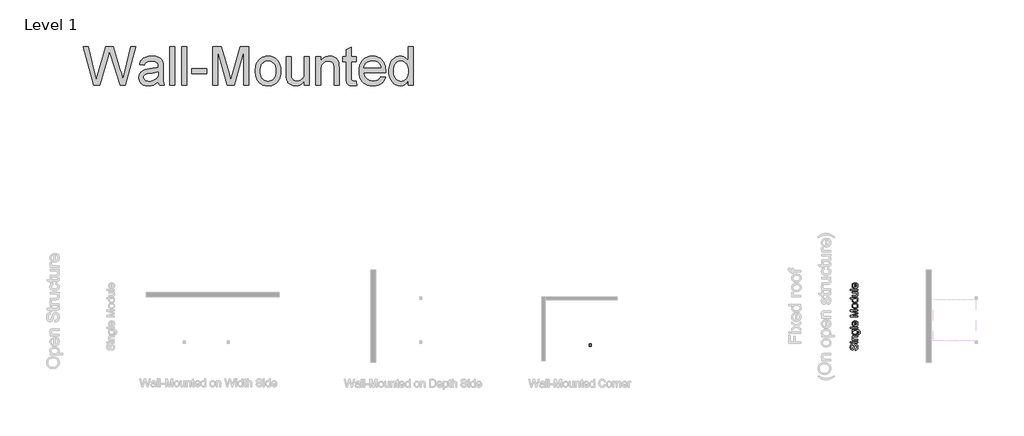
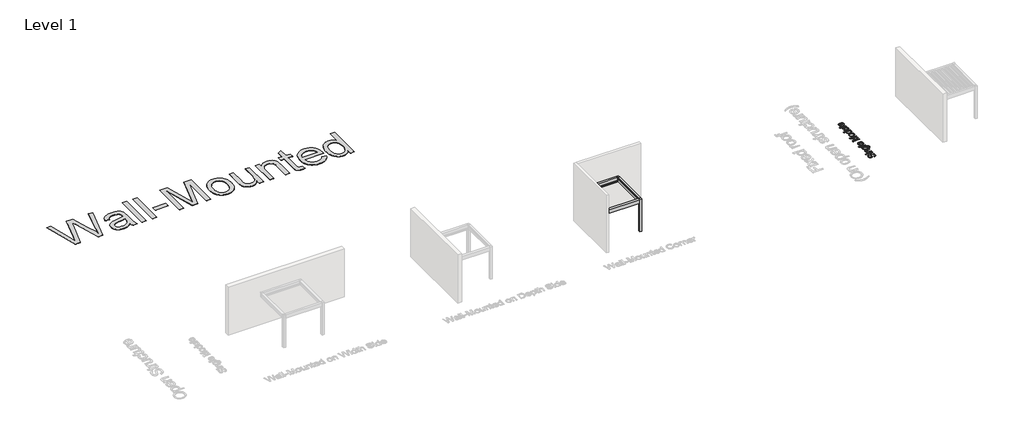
# One storey, part 71 of 80: 3 proxies.
"""IFC4 building model written with IfcOpenShell, lengths in millimetres."""

from ifc_helpers import new_model, si_unit, origin, origin_with_axes, place, context, project, spatial, polyline, outline, extrude, transform, mapped, element, save
from components import generic_models_99ac2013

model = new_model("IFC4")

# Units and contexts
model_context = context("Model", 3, world=origin())
ifc_project = project(units=[si_unit("LENGTHUNIT", "METRE", prefix="MILLI")], contexts=[model_context])

# Site, building, storey
site = spatial("IfcSite", under=ifc_project)
building = spatial("IfcBuilding", under=site)
storey = spatial("IfcBuildingStorey", under=building, Name="Level 1", Elevation=0.0)

# Proxies
placement = place(None, origin())
generic_models_shape = generic_models_99ac2013(model_context)
element("IfcBuildingElementProxy", 1, Name="Renson_Amani_Patio_Cover : Renson_Amani_Patio_Cover", ObjectType="Renson_Amani_Patio_Cover : Renson_Amani_Patio_Cover", at=placement, inside=storey, context=model_context, shape_type="MappedRepresentation", body=[
    mapped(generic_models_shape, transform((201674.0111744, 67328.5861401, 0.0), x_axis=(1.0, 0.0, 0.0), y_axis=(0.0, 1.0, 0.0), z_axis=(0.0, 0.0, 1.0))),
])
element("IfcBuildingElementProxy", 2, Name="2500 mm Arial", ObjectType="2500 mm Arial", at=placement, inside=storey, context=model_context, shape_type="SweptSolid", body=[
    extrude(outline(polyline([(170970.0635711, 82741.8832107), (170285.1899234, 85253.2909644), (170608.9260792, 85253.2909644), (171006.238634, 83602.7270794), (171128.8659657, 83093.2105161), (171260.0772106, 83543.8659602), (171757.9441774, 85253.2909644), (172224.5411746, 85253.2909644), (172586.2918032, 84014.1417773), (172668.8736469, 83784.3688145), (172741.2620937, 83554.2892834), (172803.4571435, 83323.9031839), (172855.4587964, 83093.2105161), (172974.4073081, 83588.0117996), (173375.3986829, 85253.2909644), (173699.1348386, 85253.2909644), (173013.6480543, 82741.8832107), (172678.262302, 82741.8832107), (172076.1621033, 84679.3950519), (171992.162381, 84949.7883184), (171897.7393356, 84624.2127527), (171348.9820261, 82741.8832107), (170970.0635711, 82741.8832107)])), origin_with_axes(), (0.0, 0.0, 1.0), 5.0),
    extrude(outline(polyline([(175151.0424463, 82977.3276876), (175076.6038238, 82907.4684295), (175001.0538912, 82848.7222734), (174924.3926483, 82801.0892193), (174846.6200953, 82764.569267), (174766.8548481, 82737.4762909), (174684.2155228, 82718.1241652), (174598.7021195, 82706.5128897), (174510.314638, 82702.6424645), (174438.2758708, 82704.9704678), (174370.5386404, 82711.9544775), (174307.1029468, 82723.5944938), (174247.9687902, 82739.8905165), (174193.1361704, 82760.8425458), (174142.6050875, 82786.4505815), (174096.3755415, 82816.7146238), (174054.4475323, 82851.6346726), (174017.1563691, 82890.1760597), (173984.837361, 82931.3041171), (173957.490508, 82975.0188449), (173935.1158101, 83021.3202428), (173917.7132673, 83070.2083111), (173905.2828796, 83121.6830497), (173897.824647, 83175.7444585), (173895.3385694, 83232.3925376), (173899.0940314, 83298.9561861), (173910.3604175, 83362.5307934), (173929.1377277, 83423.1163595), (173955.425962, 83480.7128843), (173987.8264023, 83534.0557736), (174024.9403306, 83581.880433), (174066.7677471, 83624.1868624), (174113.3086515, 83660.975062), (174163.7199812, 83692.9348103), (174217.1586731, 83720.7558862), (174273.6247273, 83744.4382896), (174333.1181437, 83763.9820206), (174446.088573, 83788.0476345), (174604.7376834, 83811.1935433), (174777.4122949, 83834.9525888), (174925.7147242, 83860.8576127), (175049.6449714, 83888.9086148), (175149.2030363, 83919.1055952), (175151.0424463, 83989.0031743), (175145.6391795, 84065.1087621), (175138.885096, 84098.6205126), (175129.4293791, 84129.1049008), (175117.2720288, 84156.5619268), (175102.413045, 84180.9915906), (175084.8524279, 84202.393892), (175064.5901774, 84220.7688313), (175033.6842577, 84242.0370091), (174999.2144812, 84260.4694299), (174961.1808478, 84276.0660937), (174919.5833576, 84288.8270004), (174874.4220106, 84298.7521501), (174825.6968068, 84305.8415427), (174717.5548286, 84311.5130568), (174617.0004166, 84307.7384342), (174530.5481477, 84296.4145665), (174458.198022, 84277.5414538), (174427.3112628, 84265.2739305), (174399.9500395, 84251.1190959), (174375.1850666, 84234.559616), (174352.087059, 84215.0781567), (174310.8919398, 84167.3492999), (174276.3646817, 84107.9325256), (174248.5052848, 84036.8278337), (173934.5793156, 84076.0685798), (173958.4724847, 84166.506237), (173989.0718361, 84247.7468443), (174026.3773697, 84319.7904017), (174070.3890854, 84382.6369092), (174123.003875, 84437.5509612), (174186.1186298, 84485.797152), (174259.7333498, 84527.3754816), (174343.8480352, 84562.2859501), (174436.7573995, 84589.9154208), (174536.7561564, 84609.650757), (174643.8443059, 84621.4919587), (174758.0218481, 84625.439026), (174869.6318805, 84621.9518112), (174970.2437741, 84611.490167), (175059.8575288, 84594.0540933), (175138.4731448, 84569.64359), (175206.7420796, 84539.9639437), (175265.315791, 84506.7204405), (175314.194279, 84469.9130804), (175353.3775436, 84429.5418635), (175385.1456868, 84384.6104428), (175411.7788104, 84334.122471), (175433.2769145, 84278.0779483), (175449.639999, 84216.4768747), (175456.3461812, 84169.4186361), (175461.1363114, 84107.9516861), (175464.9684155, 83941.7916516), (175464.9684155, 83551.2236001), (175468.9538038, 83211.0093966), (175473.9355391, 83091.5435508), (175480.9099686, 83005.8385422), (175490.7967972, 82937.7228915), (175504.51573, 82871.0251194), (175522.0667668, 82805.7452258), (175543.4499078, 82741.8832107), (175229.5239386, 82741.8832107), (175201.6262206, 82794.306395), (175179.2467326, 82851.0215359), (175162.3854745, 82912.0286334), (175151.0424463, 82977.3276876)]), holes=[polyline([(175151.0424463, 83605.179626), (175056.1595484, 83578.0100078), (174940.1234357, 83552.9097259), (174802.9341083, 83529.8787801), (174644.5915663, 83508.9171706), (174481.7271413, 83484.8515568), (174421.1607357, 83471.7840817), (174374.5048681, 83458.026828), (174337.0843714, 83442.27688), (174304.2240786, 83423.2313226), (174275.9239897, 83400.8901556), (174252.1841047, 83375.253379), (174233.4067946, 83347.2406979), (174219.9944302, 83317.7718173), (174211.9470115, 83286.8467371), (174209.2645386, 83254.4654573), (174215.1084974, 83205.6827719), (174232.6403737, 83161.115401), (174261.8601676, 83120.7633447), (174302.7678791, 83084.6266028), (174327.5089013, 83068.6754695), (174354.9802977, 83054.8511539), (174418.114213, 83033.582976), (174492.169625, 83020.8220693), (174577.1465338, 83016.5684337), (174663.905371, 83021.2627613), (174745.7591149, 83035.3457439), (174822.7077656, 83058.8173816), (174894.751323, 83091.6776744), (174959.7438088, 83131.2058284), (175015.5392447, 83174.6810496), (175062.1376308, 83222.103338), (175099.538967, 83273.4726937), (175121.2669973, 83319.4579431), (175136.787019, 83375.253379), (175146.099032, 83440.8590015), (175149.2030363, 83516.2748105), (175151.0424463, 83605.179626)])]), origin_with_axes(), (0.0, 0.0, 1.0), 5.0),
    extrude(outline(polyline([(175896.6166232, 82741.8832107), (175896.6166232, 85253.2909644), (176210.5425924, 85253.2909644), (176210.5425924, 82741.8832107), (175896.6166232, 82741.8832107)])), origin_with_axes(), (0.0, 0.0, 1.0), 5.0),
    extrude(outline(polyline([(176681.4315462, 82741.8832107), (176681.4315462, 85253.2909644), (176995.3575154, 85253.2909644), (176995.3575154, 82741.8832107), (176681.4315462, 82741.8832107)])), origin_with_axes(), (0.0, 0.0, 1.0), 5.0),
    extrude(outline(polyline([(177309.2834846, 83487.4573876), (177309.2834846, 83801.3833568), (178290.3021385, 83801.3833568), (178290.3021385, 83487.4573876), (177309.2834846, 83487.4573876)])), origin_with_axes(), (0.0, 0.0, 1.0), 5.0),
    extrude(outline(polyline([(178682.7096, 82741.8832107), (178682.7096, 85253.2909644), (179222.8829962, 85253.2909644), (179736.6915162, 83483.165431), (179840.3116115, 83113.4440258), (179952.51562, 83513.8222639), (180457.7402267, 85253.2909644), (180997.913623, 85253.2909644), (180997.913623, 82741.8832107), (180683.9876537, 82741.8832107), (180683.9876537, 84939.3649952), (180053.070032, 82741.8832107), (179627.5531909, 82741.8832107), (178996.6355692, 84939.3649952), (178996.6355692, 82741.8832107), (178682.7096, 82741.8832107)])), origin_with_axes(), (0.0, 0.0, 1.0), 5.0),
    extrude(outline(polyline([(181429.5618306, 83664.0407453), (181433.8058859, 83787.5973622), (181446.5380519, 83902.8957948), (181467.7583284, 84009.9360431), (181497.4667156, 84108.7181069), (181535.6632134, 84199.2419864), (181582.3478218, 84281.5076815), (181637.5205408, 84355.5151923), (181701.1813704, 84421.2645187), (181759.4485135, 84469.1179188), (181820.8196609, 84510.5908656), (181885.2948127, 84545.6833591), (181952.8739688, 84574.3953991), (182023.5571292, 84596.7269859), (182097.344294, 84612.6781193), (182174.2354631, 84622.2487993), (182254.2306365, 84625.439026), (182342.9007356, 84621.5542304), (182427.422582, 84609.8998438), (182507.7961757, 84590.475866), (182584.0215167, 84563.2822972), (182656.098605, 84528.3191373), (182724.0274406, 84485.5863862), (182787.8080235, 84435.0840441), (182847.4403537, 84376.8121109), (182901.4011698, 84311.6902916), (182948.1672104, 84240.6382911), (182987.7384755, 84163.6561096), (183020.1149652, 84080.7437469), (183045.2966794, 83991.9012031), (183063.2836181, 83897.1284781), (183074.0757813, 83796.4255721), (183077.673169, 83689.7924849), (183076.0828458, 83603.4072779), (183071.3118762, 83521.7547194), (183063.3602601, 83444.8348095), (183052.2279977, 83372.6475482), (183037.9150888, 83305.1929355), (183020.4215335, 83242.4709714), (182999.7473318, 83184.4816559), (182975.8924837, 83131.2249889), (182948.9959029, 83081.7573149), (182919.1965033, 83035.1349782), (182886.4942848, 82991.3579788), (182850.8892474, 82950.4263167), (182812.3813912, 82912.3399919), (182770.9707161, 82877.0990044), (182726.6572221, 82844.7033542), (182679.4409092, 82815.1530414), (182630.2127417, 82788.7833749), (182579.8636838, 82765.929664), (182528.3937354, 82746.5919086), (182475.8028965, 82730.7701087), (182422.0911672, 82718.4642644), (182367.2585474, 82709.6743756), (182311.3050372, 82704.4004423), (182254.2306365, 82702.6424645), (182164.1618194, 82706.5128897), (182078.5095022, 82718.1241652), (181997.2736851, 82737.4762909), (181920.4543679, 82764.569267), (181848.0515508, 82799.4030935), (181780.0652336, 82841.9777702), (181716.4954165, 82892.2932972), (181657.3420993, 82950.3496746), (181603.9560988, 83015.6870498), (181557.6882318, 83087.8455703), (181518.5384981, 83166.8252361), (181486.5068978, 83252.6260473), (181461.5934309, 83345.2480038), (181443.7980974, 83444.6911056), (181433.1208973, 83550.9553528), (181429.5618306, 83664.0407453)]), holes=[polyline([(181743.4877998, 83664.6538819), (181745.7583215, 83585.966414), (181752.5698866, 83512.3852248), (181763.922495, 83443.9103144), (181779.8161469, 83380.5416827), (181800.2508421, 83322.2793298), (181825.2265806, 83269.1232555), (181854.7433626, 83221.07346), (181888.8011879, 83178.1299433), (181926.2983267, 83140.2639645), (181966.133049, 83107.4467829), (182008.3053548, 83079.6783984), (182052.8152441, 83056.9588111), (182099.6627169, 83039.288021), (182148.8477733, 83026.6660281), (182200.3704131, 83019.0928323), (182254.2306365, 83016.5684337), (182307.803452, 83019.1072027), (182359.0770051, 83026.7235096), (182408.0512957, 83039.4173545), (182454.7263239, 83057.1887374), (182499.1020895, 83080.0376582), (182541.1785927, 83107.9641169), (182580.9558334, 83140.9681136), (182618.4338117, 83179.0496483), (182652.491637, 83222.3332643), (182682.008419, 83270.943505), (182706.9841576, 83324.8803704), (182727.4188528, 83384.1438606), (182743.3125046, 83448.7339755), (182754.665113, 83518.6507151), (182761.4766781, 83593.8940794), (182763.7471998, 83674.4640684), (182761.4623077, 83750.5648661), (182754.6076315, 83821.9042743), (182743.1831711, 83888.4822932), (182727.1889265, 83950.2989227), (182706.6248978, 84007.3541629), (182681.4910849, 84059.6480137), (182651.7874879, 84107.1804751), (182617.5141067, 84149.9515472), (182579.8493134, 84187.817526), (182539.9714799, 84220.6347076), (182497.8806063, 84248.4030921), (182453.5766926, 84271.1226794), (182407.0597388, 84288.7934695), (182358.3297448, 84301.4154624), (182307.3867107, 84308.9886582), (182254.2306365, 84311.5130568), (182200.3704131, 84308.9982384), (182148.8477733, 84301.4537835), (182099.6627169, 84288.8796918), (182052.8152441, 84271.2759635), (182008.3053548, 84248.6425986), (181966.133049, 84220.979597), (181926.2983267, 84188.2869588), (181888.8011879, 84150.5646839), (181854.7433626, 84107.764871), (181825.2265806, 84059.8396189), (181800.2508421, 84006.7889276), (181779.8161469, 83948.6127969), (181763.922495, 83885.3112271), (181752.5698866, 83816.8842179), (181745.7583215, 83743.3317695), (181743.4877998, 83664.6538819)])]), origin_with_axes(), (0.0, 0.0, 1.0), 5.0),
    extrude(outline(polyline([(184608.062269, 82741.8832107), (184608.062269, 83058.8748632), (184553.6080695, 82975.3828947), (184494.4787029, 82903.0231888), (184430.6741694, 82841.7957452), (184362.1944688, 82791.7005642), (184289.0396013, 82752.7376456), (184211.2095667, 82724.9069894), (184128.704365, 82708.2085958), (184041.5239964, 82702.6424645), (183963.7514433, 82706.5512107), (183888.6230421, 82718.2774493), (183816.1387928, 82737.8211803), (183746.2986953, 82765.1824037), (183682.1875934, 82798.4450674), (183626.890331, 82835.6931194), (183580.4069081, 82876.9265597), (183542.7373246, 82922.1453883), (183511.946368, 82972.0010629), (183486.0988257, 83027.1450411), (183465.1946978, 83087.577323), (183449.2339841, 83153.2979086), (183441.1865655, 83206.0276613), (183435.4384093, 83272.2464204), (183430.8398844, 83445.1509581), (183430.8398844, 84586.1982798), (183744.7658536, 84586.1982798), (183744.7658536, 83592.9168928), (183749.5176627, 83394.2606155), (183755.4574241, 83323.9031839), (183763.77309, 83272.859557), (183782.5695607, 83216.2785398), (183809.5284132, 83166.0971364), (183844.6496474, 83122.3153468), (183887.9332634, 83084.9331712), (183938.0763458, 83055.0235985), (183993.7759791, 83033.6596181), (184055.0321634, 83020.8412298), (184121.8448987, 83016.5684337), (184190.6503281, 83020.9370324), (184257.2714581, 83034.0428285), (184321.7082889, 83055.885822), (184383.9608202, 83086.4660128), (184440.6568006, 83124.5762883), (184488.4239784, 83169.0095355), (184527.2623537, 83219.7657545), (184557.1719263, 83276.8449453), (184579.4364512, 83343.8876068), (184595.3396833, 83424.534238), (184604.8816225, 83518.7848387), (184608.062269, 83626.6394091), (184608.062269, 84586.1982798), (184921.9882382, 84586.1982798), (184921.9882382, 82741.8832107), (184608.062269, 82741.8832107)])), origin_with_axes(), (0.0, 0.0, 1.0), 5.0),
    extrude(outline(polyline([(185353.6364458, 82741.8832107), (185353.6364458, 84586.1982798), (185667.5624151, 84586.1982798), (185667.5624151, 84328.6808832), (185719.3533022, 84398.2335729), (185776.6240982, 84458.5125707), (185839.3748031, 84509.5178765), (185907.6054169, 84551.2494903), (185981.3159396, 84583.7074122), (186060.5063712, 84606.8916421), (186145.1767116, 84620.80218), (186235.326961, 84625.439026), (186314.3257873, 84621.7027245), (186390.0673252, 84610.4938199), (186462.5515745, 84591.8123124), (186531.7785354, 84565.6582018), (186595.1232164, 84533.4302061), (186649.9606264, 84496.5270435), (186696.2907651, 84454.9487138), (186734.1136327, 84408.6952172), (186765.1728366, 84357.824035), (186791.2119841, 84302.392649), (186812.2310752, 84242.401059), (186828.2301098, 84177.8492652), (186835.4727866, 84126.460749), (186840.6461272, 84058.7474692), (186844.7847996, 83874.3466192), (186844.7847996, 82741.8832107), (186530.8588304, 82741.8832107), (186530.8588304, 83832.0401897), (186528.597889, 83919.0672742), (186521.8150647, 83994.3681201), (186510.5103576, 84057.9427274), (186494.6837676, 84109.7910961), (186473.1281819, 84153.4579225), (186444.6364878, 84192.4879029), (186409.2086852, 84226.8810374), (186366.8447742, 84256.6373258), (186319.0009543, 84280.6454581), (186267.1334251, 84297.794124), (186211.2421866, 84308.0833236), (186151.3272387, 84311.5130568), (186102.8175907, 84309.5874244), (186056.0036488, 84303.8105275), (186010.885413, 84294.1823659), (185967.4628832, 84280.7029397), (185925.7360595, 84263.3722488), (185885.7049419, 84242.1902933), (185847.3695303, 84217.1570732), (185810.7298249, 84188.2725884), (185777.1749632, 84154.0039973), (185748.0940831, 84112.8184583), (185723.4871845, 84064.7159714), (185703.3542675, 84009.6965366), (185687.6953321, 83947.7601538), (185676.5103782, 83878.9068231), (185669.7994058, 83803.1365444), (185667.5624151, 83720.4493178), (185667.5624151, 82741.8832107), (185353.6364458, 82741.8832107)])), origin_with_axes(), (0.0, 0.0, 1.0), 5.0),
    extrude(outline(polyline([(187943.5256919, 83003.6925639), (187982.766438, 82732.6861608), (187858.4529805, 82710.1533886), (187801.4695923, 82704.5201955), (187747.9350978, 82702.6424645), (187667.8058007, 82705.899753), (187597.2567639, 82715.6716185), (187536.2879874, 82731.958061), (187484.8994712, 82754.7590805), (187441.7499789, 82782.8484037), (187405.4982739, 82814.9997572), (187376.1443564, 82851.2131411), (187353.6882263, 82891.4885554), (187337.0568944, 82945.4829024), (187325.1773717, 83022.8530845), (187318.049658, 83123.5991017), (187315.6737535, 83247.720954), (187315.6737535, 84272.2723106), (187080.2292765, 84272.2723106), (187080.2292765, 84586.1982798), (187315.6737535, 84586.1982798), (187315.6737535, 85034.4011773), (187629.5997227, 85218.9553115), (187629.5997227, 84586.1982798), (187943.5256919, 84586.1982798), (187943.5256919, 84272.2723106), (187629.5997227, 84272.2723106), (187629.5997227, 83256.9180039), (187633.7383951, 83153.6044769), (187638.9117357, 83118.7323295), (187646.1544125, 83095.049926), (187655.7155122, 83077.9012601), (187667.8441218, 83062.6303252), (187699.8038701, 83037.7216485), (187720.4014297, 83028.467117), (187745.0993407, 83021.8567374), (187806.796217, 83016.5684337), (187866.7303254, 83013.3494663), (187943.5256919, 83003.6925639)])), origin_with_axes(), (0.0, 0.0, 1.0), 5.0),
    extrude(outline(polyline([(189548.7174642, 83291.2536568), (189856.5120668, 83252.0129107), (189834.9804318, 83188.5436862), (189809.3197046, 83128.7341212), (189779.5298852, 83072.5842157), (189745.6109737, 83020.0939695), (189707.5629699, 82971.2633828), (189665.385874, 82926.0924556), (189619.0796859, 82884.5811877), (189568.6444056, 82846.7295793), (189514.3291199, 82812.9591618), (189456.3829155, 82783.6914666), (189394.8057925, 82758.9264937), (189329.5977508, 82738.6642432), (189260.7587905, 82722.904715), (189188.2889115, 82711.6479092), (189112.1881139, 82704.8938257), (189032.4563976, 82702.6424645), (188932.4097394, 82706.5272601), (188837.6705454, 82718.1816467), (188748.2388156, 82737.6056245), (188664.1145499, 82764.7991933), (188585.2977485, 82799.7623532), (188511.7884113, 82842.4951043), (188443.5865383, 82892.9974464), (188380.6921295, 82951.2693796), (188324.2164951, 83016.5540633), (188275.2709453, 83088.0946571), (188233.85548, 83165.8911608), (188199.9700994, 83249.9435744), (188173.6148033, 83340.2518981), (188154.7895918, 83436.8161317), (188143.4944649, 83539.6362752), (188139.7294227, 83648.7123288), (188143.532786, 83761.5007332), (188154.942876, 83867.7937211), (188173.9596927, 83967.5912926), (188200.583236, 84060.8934475), (188234.813506, 84147.700186), (188276.6505027, 84228.0115081), (188326.0942261, 84301.8274136), (188383.1446761, 84369.1479027), (188446.2594309, 84429.2161347), (188513.8960686, 84481.2752691), (188586.0545891, 84525.3253059), (188662.7349925, 84561.3662452), (188743.9372787, 84589.3980868), (188829.6614478, 84609.4208308), (188919.9074997, 84621.4344772), (189014.6754345, 84625.439026), (189106.3441551, 84621.4440574), (189193.7304994, 84609.4591518), (189276.8344672, 84589.4843091), (189355.6560588, 84561.5195293), (189430.195274, 84525.5648124), (189500.4521128, 84481.6201585), (189566.4265753, 84429.6855675), (189628.1186615, 84369.7610393), (189683.9476283, 84302.5938344), (189732.3327329, 84228.9312131), (189773.2739753, 84148.7731752), (189806.7713554, 84062.1197209), (189832.8248732, 83968.9708501), (189851.4345289, 83869.3265628), (189862.6003222, 83763.186859), (189866.3222533, 83650.5517388), (189864.4828434, 83565.9388799), (188453.6553919, 83565.9388799), (188460.5004878, 83501.3583452), (188471.8387259, 83440.6673963), (188487.670106, 83383.866033), (188507.9946282, 83330.9542555), (188532.8122925, 83281.9320635), (188562.1230989, 83236.7994573), (188595.9270473, 83195.5564368), (188634.2241378, 83158.2030019), (188676.0180234, 83125.0074), (188720.3123568, 83096.2378783), (188767.1071382, 83071.8944369), (188816.4023675, 83051.9770758), (188868.1980448, 83036.4857949), (188922.49417, 83025.4205942), (188979.2907431, 83018.7814739), (189038.5877642, 83016.5684337), (189125.4232435, 83020.6687851), (189205.6675037, 83032.9698394), (189279.3205448, 83053.4715964), (189346.3823668, 83082.1740562), (189406.8529698, 83119.8436397), (189460.7323537, 83167.2467676), (189508.0205185, 83224.38344), (189548.7174642, 83291.2536568)]), holes=[polyline([(188453.6553919, 83879.8648491), (189552.3962841, 83879.8648491), (189536.2631258, 83968.6930225), (189524.3740228, 84008.681029), (189509.9365705, 84045.7183152), (189492.950769, 84079.8048814), (189473.4166183, 84110.9407273), (189451.3341183, 84139.1258531), (189426.7032691, 84164.3602587), (189385.3740262, 84198.8491957), (189341.0940632, 84228.7396078), (189293.8633799, 84254.031495), (189243.6819765, 84274.7248572), (189190.5498529, 84290.8196945), (189134.4670092, 84302.3160069), (189075.4334453, 84309.2137943), (189013.4491612, 84311.5130568), (188957.1124406, 84309.6784369), (188903.0654021, 84304.1745774), (188851.3080459, 84295.0014781), (188801.8403719, 84282.1591392), (188754.6623801, 84265.6475606), (188709.7740705, 84245.4667423), (188667.1754431, 84221.6166843), (188626.8664979, 84194.0973866), (188589.8914833, 84163.5028254), (188557.2946477, 84130.4269767), (188529.075991, 84094.8698407), (188505.2355133, 84056.8314172), (188485.7732145, 84016.3117063), (188470.6890947, 83973.310708), (188459.9831538, 83927.8284222), (188453.6553919, 83879.8648491)])]), origin_with_axes(), (0.0, 0.0, 1.0), 5.0),
    extrude(outline(polyline([(191318.229861, 82741.8832107), (191318.229861, 83038.0282168), (191273.7487124, 82959.4221811), (191224.3049891, 82891.2969502), (191169.8986909, 82833.652524), (191110.5298179, 82786.4889026), (191046.19837, 82749.8060859), (190976.9043473, 82723.604074), (190902.6477498, 82707.8828669), (190823.4285775, 82702.6424645), (190771.0820352, 82704.5393561), (190719.8084822, 82710.2300307), (190669.6079182, 82719.7144884), (190620.4803435, 82732.9927291), (190572.4257578, 82750.064753), (190525.4441614, 82770.9305599), (190479.5355541, 82795.5901499), (190434.6999359, 82824.0435229), (190391.6462461, 82855.8930983), (190351.0834241, 82890.7412951), (190313.0114697, 82928.5881134), (190277.430383, 82969.4335531), (190244.3401639, 83013.2776143), (190213.7408125, 83060.120297), (190185.6323289, 83109.9616012), (190160.0147128, 83162.8015268), (190137.165792, 83218.1514807), (190117.363394, 83275.5228694), (190100.6075188, 83334.9156931), (190086.8981663, 83396.3299517), (190076.2353366, 83459.7656452), (190068.6190297, 83525.2227736), (190062.5259841, 83662.2013353), (190068.1400166, 83796.6698687), (190084.9821142, 83924.7771093), (190113.0522769, 84046.5230571), (190152.3505046, 84161.9077121), (190176.2053527, 84216.3714918), (190202.8576369, 84267.5588225), (190232.307357, 84315.4697043), (190264.5545131, 84360.104137), (190299.5991053, 84401.4621206), (190337.4411334, 84439.5436553), (190378.0805976, 84474.3487409), (190421.5174977, 84505.8773775), (190467.0093637, 84533.8996389), (190513.8137254, 84558.1855987), (190561.9305827, 84578.7352571), (190611.3599357, 84595.5486139), (190662.1017843, 84608.6256692), (190714.1561286, 84617.966423), (190767.5229685, 84623.5708752), (190822.2023042, 84625.439026), (190901.220291, 84620.0932407), (190975.7930371, 84604.055885), (191045.9205425, 84577.3269588), (191111.602807, 84539.9064621), (191172.111731, 84493.9403732), (191226.7192147, 84441.5746705), (191275.425258, 84382.8093538), (191318.229861, 84317.6444233), (191318.229861, 85253.2909644), (191632.1558302, 85253.2909644), (191632.1558302, 82741.8832107), (191318.229861, 82741.8832107)]), holes=[polyline([(190376.4519533, 83663.4276086), (190378.6649935, 83584.749721), (190385.3041138, 83511.1972726), (190396.3693145, 83442.7702634), (190411.8605954, 83379.4686936), (190431.7779565, 83321.2925629), (190456.1213979, 83268.2418716), (190484.8909196, 83220.3166195), (190518.0865215, 83177.5168066), (190554.2903251, 83139.7945317), (190592.084452, 83107.1018935), (190631.468902, 83079.4388919), (190672.4436753, 83056.805527), (190715.0087718, 83039.2017987), (190759.1641914, 83026.627707), (190804.9099343, 83019.0832521), (190852.2460004, 83016.5684337), (190899.9221658, 83018.9682889), (190945.7685014, 83026.1678546), (190989.7850073, 83038.1671306), (191031.9716835, 83054.966117), (191072.32853, 83076.5648138), (191110.8555467, 83102.963221), (191147.5527338, 83134.1613387), (191182.4200911, 83170.1591667), (191214.2505059, 83211.0908288), (191241.8368654, 83257.0904486), (191265.1791696, 83308.1580261), (191284.2774185, 83364.2935613), (191299.1316121, 83425.4970541), (191309.7417504, 83491.7685047), (191316.1078333, 83563.107913), (191318.229861, 83639.5152789), (191316.0695123, 83723.3904578), (191309.5884662, 83801.4983199), (191298.7867227, 83873.8388654), (191283.6642819, 83940.4120941), (191264.2211436, 84001.2180062), (191240.4573079, 84056.2566016), (191212.3727749, 84105.5278802), (191179.9675445, 84149.0318422), (191144.4008281, 84187.1133769), (191106.8318374, 84220.1173736), (191067.2605723, 84248.0438323), (191025.6870327, 84270.8927531), (190982.1112188, 84288.664136), (190936.5331305, 84301.3579809), (190888.9527677, 84308.9742878), (190839.3701306, 84311.5130568), (190790.8844333, 84309.0748805), (190744.4489116, 84301.7603518), (190700.0635657, 84289.5694706), (190657.7283955, 84272.5022369), (190617.4434009, 84250.5586507), (190579.2085821, 84223.738712), (190543.023939, 84192.0424208), (190508.8894716, 84155.4697771), (190477.8494282, 84113.6471508), (190450.9480574, 84066.2009117), (190428.1853589, 84013.1310599), (190409.5613329, 83954.4375952), (190395.0759793, 83890.1205177), (190384.7292982, 83820.1798275), (190378.5212896, 83744.6155244), (190376.4519533, 83663.4276086)])]), origin_with_axes(), (0.0, 0.0, 1.0), 5.0),
])
element("IfcBuildingElementProxy", 3, Name="500mm Arial", ObjectType="500mm Arial", at=placement, inside=storey, context=model_context, shape_type="SweptSolid", body=[
    extrude(outline(polyline([(220240.3333758, 65583.2954326), (220240.3333758, 65646.0806264), (220275.1748664, 65653.2849821), (220303.1798833, 65666.3141361), (220325.4060871, 65686.6396164), (220342.9111388, 65715.7329508), (220354.2694954, 65751.294877), (220358.0556142, 65791.0261325), (220355.1892003, 65826.0055789), (220346.5899587, 65856.631755), (220332.9783249, 65881.4484612), (220315.0747345, 65898.9994981), (220294.519328, 65909.4381497), (220272.952246, 65912.9177002), (220251.936987, 65910.3118694), (220233.7728135, 65902.494377), (220218.2757845, 65886.6141376), (220205.2619589, 65859.8200656), (220181.2883155, 65768.4013898), (220165.4234045, 65708.3906393), (220150.3249143, 65669.9929561), (220129.2023564, 65638.7383149), (220103.6039009, 65616.5887531), (220074.0813708, 65603.3909866), (220041.186589, 65598.991731), (220004.4137179, 65604.4333189), (219970.1240503, 65620.7580824), (219954.5963644, 65632.8943561), (219941.0613727, 65647.536826), (219919.9694716, 65684.3403539), (219907.139587, 65728.5168502), (219902.8629589, 65777.4144987), (219907.3388565, 65830.389506), (219920.7665493, 65876.7426374), (219942.8701258, 65914.8184239), (219957.0719037, 65930.1315119), (219973.3736746, 65942.9613965), (220010.3764719, 65960.7730165), (220051.9777942, 65967.8547449), (220051.9777942, 65905.069551), (220031.9435539, 65900.8695649), (220014.5151444, 65893.5425818), (219999.6925657, 65883.0886018), (219987.4758177, 65869.5076248), (219977.9262143, 65852.546732), (219971.105069, 65831.9530045), (219965.6481527, 65779.8670453), (219971.0437553, 65726.5548129), (219977.7882585, 65706.1756832), (219987.2305631, 65689.9812112), (219998.5812555, 65677.6418359), (220011.0509223, 65668.8279964), (220024.6395635, 65663.5396928), (220039.3471791, 65661.7769249), (220063.4741066, 65666.7739886), (220082.8798818, 65681.7651799), (220091.5097803, 65695.5300979), (220100.2316493, 65717.2044788), (220117.9512987, 65784.2816293), (220134.7819, 65853.504758), (220149.466523, 65895.3819918), (220172.2445498, 65931.1738443), (220200.3568656, 65956.1438347), (220233.496902, 65970.8131292), (220271.3580907, 65975.7028941), (220310.0623423, 65970.0773652), (220346.4673314, 65953.2007787), (220377.7986146, 65925.7629132), (220401.2817487, 65888.4535476), (220415.9510432, 65843.5872726), (220420.8408081, 65793.4786791), (220415.5678328, 65731.9657439), (220408.9766137, 65705.2904671), (220399.748907, 65681.3359843), (220387.8693842, 65659.9566754), (220373.322717, 65641.0069206), (220356.1089053, 65624.4867197), (220336.2279492, 65610.3960729), (220314.323642, 65599.0453805), (220291.0397774, 65590.745043), (220266.3763553, 65585.4950603), (220240.3333758, 65583.2954326)])), origin_with_axes(), (0.0, 0.0, 1.0), 5.0),
    extrude(outline(polyline([(220412.9926588, 66062.0325356), (220044.129645, 66062.0325356), (220044.129645, 66124.8177295), (220412.9926588, 66124.8177295), (220412.9926588, 66062.0325356)])), origin_with_axes(), (0.0, 0.0, 1.0), 5.0),
    extrude(outline(polyline([(219973.4963019, 66062.0325356), (219910.7111081, 66062.0325356), (219910.7111081, 66124.8177295), (219973.4963019, 66124.8177295), (219973.4963019, 66062.0325356)])), origin_with_axes(), (0.0, 0.0, 1.0), 5.0),
    extrude(outline(polyline([(220412.9926588, 66218.9955202), (220044.129645, 66218.9955202), (220044.129645, 66281.7807141), (220095.6331243, 66281.7807141), (220069.6667868, 66303.5930507), (220051.1194029, 66329.7893144), (220039.9909726, 66360.3695053), (220036.2814958, 66395.3336233), (220039.270537, 66426.2816961), (220048.2376606, 66454.6239381), (220062.0638923, 66478.2603563), (220079.6302575, 66495.0909576), (220100.8907712, 66506.5106279), (220125.7994479, 66513.914253), (220186.4999771, 66517.225191), (220412.9926588, 66517.225191), (220412.9926588, 66454.4399971), (220194.961263, 66454.4399971), (220162.495677, 66452.631244), (220139.4110818, 66447.2049846), (220122.8717204, 66437.1955286), (220110.0418358, 66421.6371859), (220101.8104762, 66401.6949161), (220099.0666896, 66378.5336788), (220100.6071955, 66359.4689608), (220105.228713, 66341.7608077), (220112.9312423, 66325.4092194), (220123.7147833, 66310.414196), (220138.8056093, 66297.8870477), (220159.4299937, 66288.9390846), (220185.5879364, 66283.5703067), (220217.2794374, 66281.7807141), (220412.9926588, 66281.7807141), (220412.9926588, 66218.9955202)])), origin_with_axes(), (0.0, 0.0, 1.0), 5.0),
    extrude(outline(polyline([(220444.3852558, 66587.8585341), (220452.233405, 66650.6437279), (220471.8537781, 66657.5721721), (220485.3427846, 66670.999865), (220495.8274214, 66697.3953981), (220499.3223004, 66731.9456488), (220495.3675689, 66768.795162), (220483.5033746, 66796.2023707), (220464.4961382, 66815.2096071), (220439.1122805, 66826.8592036), (220412.1036107, 66830.2621121), (220365.9037635, 66831.1511602), (220386.5051552, 66810.2585286), (220401.220435, 66786.9440071), (220410.0496029, 66761.2075959), (220412.9926588, 66733.0492948), (220409.5667578, 66698.6255035), (220399.2890545, 66668.3173921), (220382.1595491, 66642.1249605), (220358.1782416, 66620.0482086), (220329.4068038, 66602.5316607), (220297.906908, 66590.0198408), (220263.678554, 66582.5127488), (220226.7217419, 66580.0103848), (220176.0306687, 66584.5016109), (220129.4169542, 66597.9752889), (220089.915625, 66619.9562381), (220073.9702398, 66633.9587466), (220060.5617075, 66649.9692776), (220049.9391148, 66667.7310802), (220042.3515487, 66686.9874033), (220037.799009, 66707.7382471), (220036.2814958, 66729.9836115), (220039.7150611, 66759.3451933), (220050.0157569, 66785.9936453), (220067.1835834, 66809.9289676), (220091.2185404, 66831.1511602), (220044.129645, 66831.1511602), (220044.129645, 66893.936354), (220362.5928255, 66893.936354), (220436.1232393, 66889.6443974), (220463.4729664, 66884.2794517), (220484.5457069, 66876.7685276), (220516.6587394, 66854.588309), (220541.2608478, 66822.383306), (220550.3812556, 66802.6977871), (220556.8958326, 66780.8586258), (220562.1074942, 66730.7193755), (220560.2719163, 66699.9590758), (220554.7651827, 66672.3027804), (220545.5872934, 66647.7504893), (220532.7382483, 66626.3022026), (220516.202719, 66608.9772598), (220495.9653772, 66596.7950009), (220472.0262227, 66589.7554256), (220444.3852558, 66587.8585341)]), holes=[polyline([(220222.4297853, 66642.7955787), (220253.4736608, 66644.4702082), (220280.018646, 66649.4940967), (220302.064741, 66657.8672442), (220319.6119457, 66669.5896507), (220332.9974854, 66683.8412459), (220342.5585852, 66699.8019595), (220348.295245, 66717.4717916), (220350.207465, 66736.8507421), (220348.3067413, 66756.0380874), (220342.6045704, 66773.6236132), (220333.1009522, 66789.6073195), (220319.7958867, 66803.9892062), (220302.4211267, 66815.8725611), (220280.7084247, 66824.3606717), (220254.657781, 66829.4535381), (220224.2691953, 66831.1511602), (220195.1490361, 66829.4037207), (220169.8379884, 66824.1614023), (220148.3360522, 66815.4242049), (220130.6432275, 66803.1921286), (220116.8284922, 66788.4998414), (220106.9608241, 66772.3820115), (220101.0402232, 66754.8386388), (220099.0666896, 66735.8697235), (220101.0095664, 66717.2188727), (220106.8381968, 66700.0165573), (220116.5525807, 66684.2627773), (220130.1527182, 66669.9575327), (220147.5772956, 66658.0741778), (220168.7649993, 66649.5860672), (220193.7158292, 66644.4932008), (220222.4297853, 66642.7955787)])]), origin_with_axes(), (0.0, 0.0, 1.0), 5.0),
    extrude(outline(polyline([(220412.9926588, 66988.1141448), (219910.7111081, 66988.1141448), (219910.7111081, 67050.8993387), (220412.9926588, 67050.8993387), (220412.9926588, 66988.1141448)])), origin_with_axes(), (0.0, 0.0, 1.0), 5.0),
    extrude(outline(polyline([(220303.1185696, 67403.33029), (220310.9667188, 67464.8892106), (220335.6224767, 67455.4507381), (220357.3505071, 67442.7089919), (220376.1508099, 67426.663972), (220392.0233851, 67407.3156783), (220404.6310077, 67384.8633803), (220413.6364523, 67359.5063474), (220419.0397191, 67331.2445795), (220420.8408081, 67300.0780767), (220417.7329716, 67261.1209063), (220408.4094623, 67226.4097072), (220392.8702801, 67195.9444795), (220371.115425, 67169.7252231), (220343.7503696, 67148.6409863), (220311.3805861, 67133.5808171), (220274.0060746, 67124.5447156), (220231.6268352, 67121.5326817), (220187.8105567, 67124.5753724), (220149.1906115, 67133.7034444), (220115.7669994, 67148.9168977), (220087.5397204, 67170.2157324), (220065.1142471, 67196.3660109), (220049.0960519, 67226.1337957), (220039.4851348, 67259.5190868), (220036.2814958, 67296.5218841), (220039.4774706, 67332.3328971), (220049.0653951, 67364.718009), (220065.0452693, 67393.6772198), (220087.4170931, 67419.2105295), (220115.5830584, 67440.0533438), (220148.9453568, 67454.9410683), (220187.5039884, 67463.873703), (220231.2589532, 67466.8512479), (220248.181525, 67466.4833659), (220248.181525, 67184.3178756), (220273.2358217, 67187.9545424), (220295.1784499, 67195.1857228), (220314.0094095, 67206.011417), (220329.7287006, 67220.4316248), (220342.1217253, 67237.6492686), (220350.9738858, 67256.8672707), (220356.2851821, 67278.0856312), (220358.0556142, 67301.30435), (220354.7753331, 67334.7202979), (220344.9344897, 67362.8632706), (220327.9199474, 67385.7332679), (220303.1185696, 67403.33029)]), holes=[polyline([(220185.3963312, 67184.3178756), (220185.3963312, 67404.066054), (220152.2256379, 67395.5741113), (220128.4972492, 67378.927451), (220115.6213794, 67361.8056098), (220106.4243295, 67342.3231925), (220100.9060996, 67320.480199), (220099.0666896, 67296.2766294), (220104.9374731, 67253.9548716), (220112.2759525, 67235.5416113), (220122.5498236, 67218.9600968), (220135.2839056, 67205.0457267), (220150.0030175, 67194.6338999), (220166.7071594, 67187.7246161), (220185.3963312, 67184.3178756)])]), origin_with_axes(), (0.0, 0.0, 1.0), 5.0),
    extrude(outline(polyline([(220412.9926588, 67733.6883217), (219910.7111081, 67733.6883217), (219910.7111081, 67841.723001), (220264.7362148, 67944.4847049), (220338.6804958, 67965.208724), (220258.6048482, 67987.6495257), (219910.7111081, 68088.6944471), (219910.7111081, 68196.7291263), (220412.9926588, 68196.7291263), (220412.9926588, 68133.9439325), (219973.4963019, 68133.9439325), (220412.9926588, 68007.7604081), (220412.9926588, 67922.6570399), (219973.4963019, 67796.4735155), (220412.9926588, 67796.4735155), (220412.9926588, 67733.6883217)])), origin_with_axes(), (0.0, 0.0, 1.0), 5.0),
    extrude(outline(polyline([(220228.5611519, 68283.0587678), (220180.790142, 68286.4540121), (220139.6256796, 68296.6397448), (220105.0677647, 68313.6159661), (220077.1163972, 68337.3826758), (220059.2511278, 68361.3103339), (220046.4902211, 68387.7211955), (220038.8336771, 68416.6152605), (220036.2814958, 68447.992529), (220039.3893322, 68482.6309181), (220048.7128415, 68513.9507051), (220064.2520237, 68541.9518898), (220086.0068788, 68566.6344725), (220113.2416427, 68586.7798438), (220145.2205516, 68601.1693947), (220181.9436053, 68609.8031253), (220223.410804, 68612.6810355), (220286.8397913, 68607.5920012), (220312.8751067, 68601.2307084), (220335.1243032, 68592.3248984), (220354.3423053, 68580.9857024), (220371.2840376, 68567.3242512), (220385.9495001, 68551.3405449), (220398.3386927, 68533.0345836), (220415.2152792, 68492.306981), (220420.8408081, 68447.992529), (220417.7444679, 68412.8483022), (220408.4554476, 68381.2372753), (220392.9737469, 68353.1594484), (220371.299366, 68328.6148216), (220343.8001869, 68308.6840481), (220310.8440915, 68294.4477813), (220272.4310798, 68285.9060212), (220228.5611519, 68283.0587678)]), holes=[polyline([(220228.4385246, 68345.8439617), (220258.892256, 68347.660379), (220285.2609644, 68353.1096311), (220307.5446499, 68362.1917178), (220325.7433123, 68374.9066393), (220339.8799444, 68390.3730115), (220349.9775387, 68407.7094505), (220356.0360954, 68426.9159564), (220358.0556142, 68447.992529), (220356.024599, 68468.9618027), (220349.9315535, 68488.0916665), (220339.7764776, 68505.3821203), (220325.5593713, 68520.8331641), (220307.1806, 68533.5480855), (220284.5405289, 68542.6301723), (220257.639158, 68548.0794243), (220226.4764873, 68549.8958417), (220196.9884461, 68548.067928), (220171.3095164, 68542.584187), (220149.4396982, 68533.4446187), (220131.3789915, 68520.6492231), (220117.2423594, 68505.1406977), (220107.1447651, 68487.8617402), (220101.0862085, 68468.8123507), (220099.0666896, 68447.992529), (220101.0785443, 68426.9159564), (220107.1141083, 68407.7094505), (220117.1733816, 68390.3730115), (220131.2563642, 68374.9066393), (220149.4013772, 68362.1917178), (220171.6467416, 68353.1096311), (220197.9924574, 68347.660379), (220228.4385246, 68345.8439617)])]), origin_with_axes(), (0.0, 0.0, 1.0), 5.0),
    extrude(outline(polyline([(220412.9926588, 68910.9107063), (220353.7636576, 68910.9107063), (220383.1099109, 68892.1257319), (220404.0715205, 68869.3706976), (220416.6484862, 68842.6456035), (220420.8408081, 68811.9504496), (220414.7707551, 68771.3608028), (220396.5605964, 68734.2047213), (220367.4825903, 68702.7508107), (220328.8089956, 68679.2676766), (220282.1033106, 68664.6443673), (220228.9290339, 68659.7699309), (220176.4138791, 68664.2611569), (220128.9877586, 68677.734835), (220107.8575365, 68687.8362614), (220089.3484736, 68700.1756367), (220073.4605699, 68714.7529608), (220060.1938255, 68731.5682336), (220042.2595782, 68769.5367212), (220036.2814958, 68811.7051949), (220040.558124, 68842.4233415), (220053.3880085, 68869.5852955), (220073.0543669, 68892.608577), (220097.8404163, 68910.9107063), (219910.7111081, 68910.9107063), (219910.7111081, 68973.6959001), (220412.9926588, 68973.6959001), (220412.9926588, 68910.9107063)]), holes=[polyline([(220228.6837793, 68722.5551247), (220259.1298465, 68724.3255568), (220285.4755623, 68729.6368531), (220307.7209267, 68738.4890137), (220325.8659396, 68750.8820384), (220339.9489223, 68765.6816245), (220350.0081956, 68781.7534691), (220356.0437596, 68799.0975724), (220358.0556142, 68817.7139342), (220356.1357301, 68836.4184344), (220350.3760776, 68853.6590708), (220340.7766568, 68869.4358434), (220327.3374676, 68883.7487523), (220309.9512112, 68895.6321072), (220288.5105887, 68904.1202178), (220263.0156, 68909.2130841), (220233.4662452, 68910.9107063), (220201.069637, 68909.1824273), (220173.2868821, 68903.9975904), (220150.1179807, 68895.3561957), (220131.5629325, 68883.258243), (220117.3458263, 68868.6311016), (220107.1907503, 68852.4021406), (220101.0977048, 68834.5713602), (220099.0666896, 68815.1387602), (220101.0172306, 68796.1545164), (220106.8688536, 68778.8104132), (220116.6215586, 68763.1064505), (220130.2753455, 68749.0426284), (220148.1291186, 68737.4543455), (220170.4817819, 68729.1770007), (220197.3333355, 68724.2105937), (220228.6837793, 68722.5551247)])]), origin_with_axes(), (0.0, 0.0, 1.0), 5.0),
    extrude(outline(polyline([(220412.9926588, 69303.3181678), (220349.5943283, 69303.3181678), (220380.7646632, 69280.6014546), (220403.0291881, 69254.1446078), (220416.3879031, 69223.9476273), (220420.8408081, 69190.0105133), (220417.7138111, 69159.4303224), (220408.3328202, 69130.9654531), (220394.2306771, 69107.0837802), (220376.9402233, 69090.2531789), (220355.9402927, 69078.9254792), (220330.7097192, 69071.5525108), (220272.3391093, 69067.8736909), (220044.129645, 69067.8736909), (220044.129645, 69130.6588847), (220242.7859224, 69130.6588847), (220306.7973896, 69134.460332), (220328.1498737, 69143.6113966), (220344.3826667, 69159.2923667), (220354.6373773, 69180.4609098), (220358.0556142, 69206.0746937), (220354.5607353, 69233.1600056), (220344.0760984, 69258.497878), (220327.5673939, 69279.3905097), (220306.0003119, 69293.1400993), (220276.4624534, 69300.7736507), (220236.0414192, 69303.3181678), (220044.129645, 69303.3181678), (220044.129645, 69366.1033616), (220412.9926588, 69366.1033616), (220412.9926588, 69303.3181678)])), origin_with_axes(), (0.0, 0.0, 1.0), 5.0),
    extrude(outline(polyline([(220412.9926588, 69452.4330032), (219910.7111081, 69452.4330032), (219910.7111081, 69515.218197), (220412.9926588, 69515.218197), (220412.9926588, 69452.4330032)])), origin_with_axes(), (0.0, 0.0, 1.0), 5.0),
    extrude(outline(polyline([(220303.1185696, 69867.6491484), (220310.9667188, 69929.2080689), (220335.6224767, 69919.7695965), (220357.3505071, 69907.0278503), (220376.1508099, 69890.9828304), (220392.0233851, 69871.6345367), (220404.6310077, 69849.1822387), (220413.6364523, 69823.8252057), (220419.0397191, 69795.5634379), (220420.8408081, 69764.3969351), (220417.7329716, 69725.4397646), (220408.4094623, 69690.7285655), (220392.8702801, 69660.2633378), (220371.115425, 69634.0440815), (220343.7503696, 69612.9598446), (220311.3805861, 69597.8996754), (220274.0060746, 69588.8635739), (220231.6268352, 69585.8515401), (220187.8105567, 69588.8942308), (220149.1906115, 69598.0223028), (220115.7669994, 69613.2357561), (220087.5397204, 69634.5345908), (220065.1142471, 69660.6848693), (220049.0960519, 69690.4526541), (220039.4851348, 69723.8379451), (220036.2814958, 69760.8407425), (220039.4774706, 69796.6517554), (220049.0653951, 69829.0368673), (220065.0452693, 69857.9960781), (220087.4170931, 69883.5293879), (220115.5830584, 69904.3722021), (220148.9453568, 69919.2599266), (220187.5039884, 69928.1925613), (220231.2589532, 69931.1701062), (220248.181525, 69930.8022242), (220248.181525, 69648.6367339), (220273.2358217, 69652.2734007), (220295.1784499, 69659.5045812), (220314.0094095, 69670.3302753), (220329.7287006, 69684.7504831), (220342.1217253, 69701.9681269), (220350.9738858, 69721.1861291), (220356.2851821, 69742.4044896), (220358.0556142, 69765.6232084), (220354.7753331, 69799.0391563), (220344.9344897, 69827.1821289), (220327.9199474, 69850.0521263), (220303.1185696, 69867.6491484)]), holes=[polyline([(220185.3963312, 69648.6367339), (220185.3963312, 69868.3849124), (220152.2256379, 69859.8929697), (220128.4972492, 69843.2463094), (220115.6213794, 69826.1244682), (220106.4243295, 69806.6420509), (220100.9060996, 69784.7990574), (220099.0666896, 69760.5954878), (220104.9374731, 69718.2737299), (220112.2759525, 69699.8604697), (220122.5498236, 69683.2789551), (220135.2839056, 69669.3645851), (220150.0030175, 69658.9527582), (220166.7071594, 69652.0434745), (220185.3963312, 69648.6367339)])]), origin_with_axes(), (0.0, 0.0, 1.0), 5.0),
])

save(model, "model.ifc")
